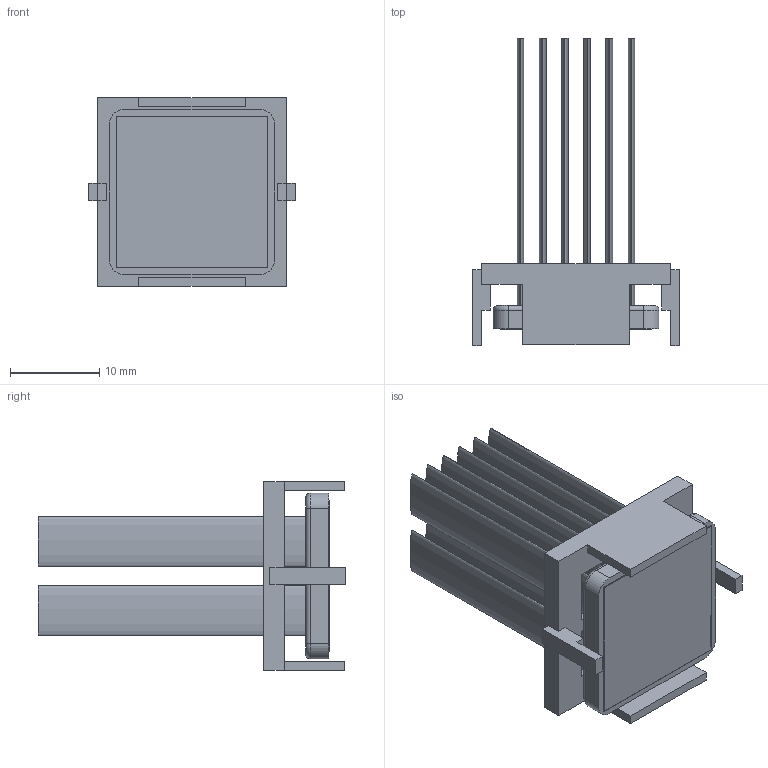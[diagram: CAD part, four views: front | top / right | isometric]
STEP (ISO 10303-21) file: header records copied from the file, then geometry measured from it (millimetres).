
FILE_DESCRIPTION (( 'STEP AP214' ), '1' );
FILE_NAME ('INM19001-33W-2.6BU.STEP', '2023-03-02T18:22:40', ( '' ), ( '' ), 'SwSTEP 2.0', 'SolidWorks 2020', '' );
FILE_SCHEMA (( 'AUTOMOTIVE_DESIGN' ));
Length unit declared in the file: millimetre
Products named in the file (1): INM19001-33W-2.6BU
Bounding box: 23.2 x 34.5 x 21.2 mm (x, y, z)
Volume: 2981.3 mm3; surface area: 7011.9 mm2
Topology: 3 solids, 3 shells, 106 faces, 256 edges, 168 vertices
Faces by surface type: plane 70, bspline 24, cylinder 8, torus 4
Entity records: 4330 total; most frequent: CARTESIAN_POINT 843, ORIENTED_EDGE 512, DIRECTION 394, EDGE_CURVE 256, VECTOR 188, LINE 188, VERTEX_POINT 168, EDGE_LOOP 120
